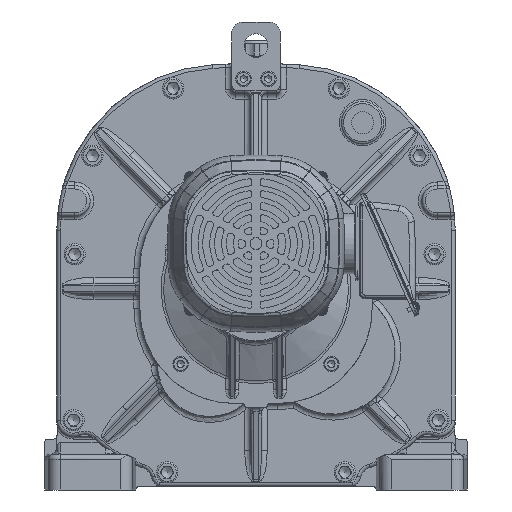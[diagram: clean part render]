
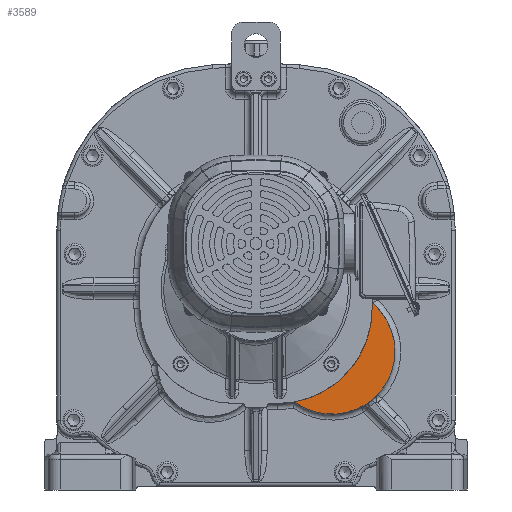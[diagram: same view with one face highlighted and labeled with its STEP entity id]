
A CAD part, left-side view. The second image highlights one B-rep face of the part: STEP entity #3589.
In plain terms, the highlighted planar face has unit normal (-1, 0, 0).
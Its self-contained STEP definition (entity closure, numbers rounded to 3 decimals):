
#3589 = ADVANCED_FACE( '', ( #9052 ), #9053, .F. );
#9052 = FACE_OUTER_BOUND( '', #27165, .T. );
#9053 = PLANE( '', #27166 );
#27165 = EDGE_LOOP( '', ( #58671, #58672, #58673, #58674, #58675 ) );
#27166 = AXIS2_PLACEMENT_3D( '', #58676, #58677, #58678 );
#58671 = ORIENTED_EDGE( '', *, *, #76129, .T. );
#58672 = ORIENTED_EDGE( '', *, *, #75909, .T. );
#58673 = ORIENTED_EDGE( '', *, *, #76130, .F. );
#58674 = ORIENTED_EDGE( '', *, *, #76131, .T. );
#58675 = ORIENTED_EDGE( '', *, *, #75457, .T. );
#58676 = CARTESIAN_POINT( '', ( 7.257, -249.245, -39.204 ) );
#58677 = DIRECTION( '', ( 1., 0., 0. ) );
#58678 = DIRECTION( '', ( 0., 0., -1. ) );
#75457 = EDGE_CURVE( '', #84781, #84779, #84782, .T. );
#75909 = EDGE_CURVE( '', #85485, #85489, #85491, .T. );
#76129 = EDGE_CURVE( '', #84779, #85485, #85835, .T. );
#76130 = EDGE_CURVE( '', #85836, #85489, #85837, .T. );
#76131 = EDGE_CURVE( '', #85836, #84781, #85838, .T. );
#84779 = VERTEX_POINT( '', #99898 );
#84781 = VERTEX_POINT( '', #99901 );
#84782 = LINE( '', #99902, #99903 );
#85485 = VERTEX_POINT( '', #101199 );
#85489 = VERTEX_POINT( '', #101213 );
#85491 = CIRCLE( '', #101216, 5. );
#85835 = CIRCLE( '', #102411, 80. );
#85836 = VERTEX_POINT( '', #102412 );
#85837 = CIRCLE( '', #102413, 53. );
#85838 = CIRCLE( '', #102414, 5. );
#99898 = CARTESIAN_POINT( '', ( 7.257, -282.993, -3.192 ) );
#99901 = CARTESIAN_POINT( '', ( 7.257, -282.993, 3.954 ) );
#99902 = CARTESIAN_POINT( '', ( 7.257, -282.993, -3.192 ) );
#99903 = VECTOR( '', #118087, 1000. );
#101199 = CARTESIAN_POINT( '', ( 7.257, -215.745, -82.169 ) );
#101213 = CARTESIAN_POINT( '', ( 7.257, -219.361, -82.976 ) );
#101216 = AXIS2_PLACEMENT_3D( '', #118764, #118765, #118766 );
#102411 = AXIS2_PLACEMENT_3D( '', #119020, #119021, #119022 );
#102412 = CARTESIAN_POINT( '', ( 7.257, -284.653, 0.233 ) );
#102413 = AXIS2_PLACEMENT_3D( '', #119023, #119024, #119025 );
#102414 = AXIS2_PLACEMENT_3D( '', #119026, #119027, #119028 );
#118087 = DIRECTION( '', ( 0., 0., -1. ) );
#118764 = CARTESIAN_POINT( '', ( 7.257, -216.542, -87.105 ) );
#118765 = DIRECTION( '', ( 1., 0., 0. ) );
#118766 = DIRECTION( '', ( 0., 0., -1. ) );
#119020 = CARTESIAN_POINT( '', ( 7.257, -202.993, -3.192 ) );
#119021 = DIRECTION( '', ( 1., 0., 0. ) );
#119022 = DIRECTION( '', ( 0., 0., -1. ) );
#119023 = CARTESIAN_POINT( '', ( 7.257, -249.245, -39.204 ) );
#119024 = DIRECTION( '', ( 1., 0., 0. ) );
#119025 = DIRECTION( '', ( 0., 0., -1. ) );
#119026 = CARTESIAN_POINT( '', ( 7.257, -287.993, 3.954 ) );
#119027 = DIRECTION( '', ( 1., 0., 0. ) );
#119028 = DIRECTION( '', ( 0., 0., -1. ) );
